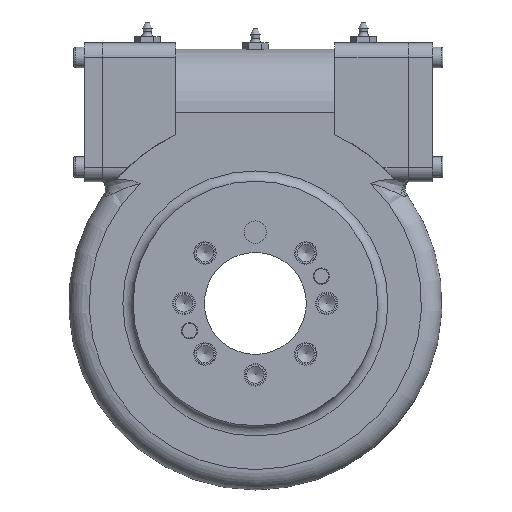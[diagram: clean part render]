
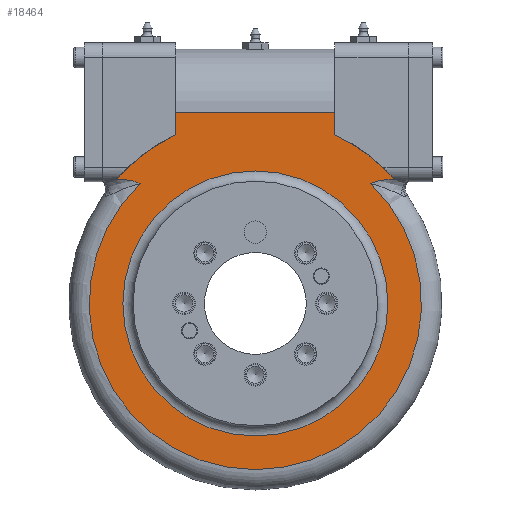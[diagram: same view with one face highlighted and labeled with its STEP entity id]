
A CAD part, front view. The second image highlights one B-rep face of the part: STEP entity #18464.
In plain terms, the highlighted planar face has unit normal (0, -1, 0).
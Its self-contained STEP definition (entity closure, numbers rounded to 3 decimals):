
#34 = FACE_BOUND ( 'NONE', #3839, .T. ) ;
#108 = CARTESIAN_POINT ( 'NONE',  ( -60.252, -31., -33.661 ) ) ;
#198 = CARTESIAN_POINT ( 'NONE',  ( 0., -31., -28.75 ) ) ;
#296 = CARTESIAN_POINT ( 'NONE',  ( 68.198, -31., -32.748 ) ) ;
#307 = DIRECTION ( 'NONE',  ( 0., -1., 0. ) ) ;
#528 = CARTESIAN_POINT ( 'NONE',  ( 60.252, -31., -33.661 ) ) ;
#529 = AXIS2_PLACEMENT_3D ( 'NONE', #15215, #8650, #11990 ) ;
#1045 = ORIENTED_EDGE ( 'NONE', *, *, #18711, .T. ) ;
#1122 = CARTESIAN_POINT ( 'NONE',  ( -56.421, -31., -34.937 ) ) ;
#1579 = CARTESIAN_POINT ( 'NONE',  ( -56.421, -31., -34.937 ) ) ;
#1767 = EDGE_CURVE ( 'NONE', #15386, #12263, #17585, .T. ) ;
#1801 = CIRCLE ( 'NONE', #11463, 81.5 ) ;
#2071 = CARTESIAN_POINT ( 'NONE',  ( 67.19, -31., -32.761 ) ) ;
#2294 = CARTESIAN_POINT ( 'NONE',  ( 68.198, -31., -32.748 ) ) ;
#2327 = DIRECTION ( 'NONE',  ( 0., 0., 1. ) ) ;
#2669 = VERTEX_POINT ( 'NONE', #4085 ) ;
#2705 = CARTESIAN_POINT ( 'NONE',  ( 39., -31., 0. ) ) ;
#2851 = DIRECTION ( 'NONE',  ( 0., -1., 0. ) ) ;
#3167 = LINE ( 'NONE', #2705, #10980 ) ;
#3436 = ORIENTED_EDGE ( 'NONE', *, *, #11782, .T. ) ;
#3480 = VERTEX_POINT ( 'NONE', #198 ) ;
#3531 = CARTESIAN_POINT ( 'NONE',  ( -39., -31., 0. ) ) ;
#3824 = CARTESIAN_POINT ( 'NONE',  ( 61.23, -31., -33.449 ) ) ;
#3839 = EDGE_LOOP ( 'NONE', ( #3436 ) ) ;
#3997 = ORIENTED_EDGE ( 'NONE', *, *, #6099, .T. ) ;
#4046 = ORIENTED_EDGE ( 'NONE', *, *, #1767, .T. ) ;
#4085 = CARTESIAN_POINT ( 'NONE',  ( 39., -31., -10.978 ) ) ;
#4626 = AXIS2_PLACEMENT_3D ( 'NONE', #9582, #2851, #7989 ) ;
#4676 = EDGE_CURVE ( 'NONE', #12263, #14358, #20678, .T. ) ;
#5048 = CARTESIAN_POINT ( 'NONE',  ( -64.192, -31., -32.987 ) ) ;
#5769 = ORIENTED_EDGE ( 'NONE', *, *, #10866, .T. ) ;
#6061 = CIRCLE ( 'NONE', #17041, 65. ) ;
#6067 = VECTOR ( 'NONE', #18723, 1000. ) ;
#6099 = EDGE_CURVE ( 'NONE', #14358, #14252, #17816, .T. ) ;
#6453 = CARTESIAN_POINT ( 'NONE',  ( -58.797, -31., -34.067 ) ) ;
#6725 = CARTESIAN_POINT ( 'NONE',  ( -56.653, -31., -34.837 ) ) ;
#6984 = DIRECTION ( 'NONE',  ( 0., 0., -1. ) ) ;
#7085 = CARTESIAN_POINT ( 'NONE',  ( 57.349, -31., -34.533 ) ) ;
#7208 = CARTESIAN_POINT ( 'NONE',  ( -39., -31., -10.978 ) ) ;
#7989 = DIRECTION ( 'NONE',  ( 0., 0., -1. ) ) ;
#8109 = CARTESIAN_POINT ( 'NONE',  ( -56.535, -31., -34.887 ) ) ;
#8236 = EDGE_CURVE ( 'NONE', #14678, #10562, #11225, .T. ) ;
#8240 = ORIENTED_EDGE ( 'NONE', *, *, #19797, .T. ) ;
#8249 = CARTESIAN_POINT ( 'NONE',  ( -56.887, -31., -34.741 ) ) ;
#8369 = ORIENTED_EDGE ( 'NONE', *, *, #20342, .T. ) ;
#8555 = CARTESIAN_POINT ( 'NONE',  ( 39., -31., 0. ) ) ;
#8612 = CARTESIAN_POINT ( 'NONE',  ( 58.312, -31., -34.202 ) ) ;
#8650 = DIRECTION ( 'NONE',  ( 0., 1., 0. ) ) ;
#8834 = CARTESIAN_POINT ( 'NONE',  ( -39., -31., 0. ) ) ;
#8890 = CARTESIAN_POINT ( 'NONE',  ( 66.187, -31., -32.812 ) ) ;
#9405 = DIRECTION ( 'NONE',  ( 0., 1., 0. ) ) ;
#9582 = CARTESIAN_POINT ( 'NONE',  ( 0., -31., -93.75 ) ) ;
#9610 = CARTESIAN_POINT ( 'NONE',  ( 0., -31., -93.75 ) ) ;
#9700 = EDGE_LOOP ( 'NONE', ( #18653, #3997, #8369, #14357, #8240, #5769, #1045, #4046 ) ) ;
#9714 = AXIS2_PLACEMENT_3D ( 'NONE', #20408, #307, #6984 ) ;
#10069 = CARTESIAN_POINT ( 'NONE',  ( -61.23, -31., -33.449 ) ) ;
#10562 = VERTEX_POINT ( 'NONE', #296 ) ;
#10567 = CARTESIAN_POINT ( 'NONE',  ( 63.201, -31., -33.112 ) ) ;
#10866 = EDGE_CURVE ( 'NONE', #2669, #20946, #3167, .T. ) ;
#10980 = VECTOR ( 'NONE', #15970, 1000. ) ;
#11225 = B_SPLINE_CURVE_WITH_KNOTS ( 'NONE', 3,
 ( #15546, #7085, #8612, #528, #3824, #10567, #15255, #8890, #2071, #2294 ),
 .UNSPECIFIED., .F., .F.,
 ( 4, 2, 2, 2, 4 ),
 ( 0., 0.003, 0.006, 0.009, 0.012 ),
 .UNSPECIFIED. ) ;
#11463 = AXIS2_PLACEMENT_3D ( 'NONE', #20693, #12271, #2327 ) ;
#11539 = CARTESIAN_POINT ( 'NONE',  ( -57.359, -31., -34.555 ) ) ;
#11611 = CARTESIAN_POINT ( 'NONE',  ( -68.198, -31., -32.748 ) ) ;
#11782 = EDGE_CURVE ( 'NONE', #3480, #3480, #6061, .T. ) ;
#11990 = DIRECTION ( 'NONE',  ( 0., 0., 1. ) ) ;
#12263 = VERTEX_POINT ( 'NONE', #7208 ) ;
#12271 = DIRECTION ( 'NONE',  ( 0., -1., 0. ) ) ;
#13208 = PLANE ( 'NONE',  #529 ) ;
#14239 = CARTESIAN_POINT ( 'NONE',  ( 56.421, -31., -34.937 ) ) ;
#14252 = VERTEX_POINT ( 'NONE', #1122 ) ;
#14357 = ORIENTED_EDGE ( 'NONE', *, *, #8236, .T. ) ;
#14358 = VERTEX_POINT ( 'NONE', #16333 ) ;
#14675 = DIRECTION ( 'NONE',  ( -1., 0., 0. ) ) ;
#14678 = VERTEX_POINT ( 'NONE', #14239 ) ;
#15022 = CARTESIAN_POINT ( 'NONE',  ( -58.313, -31., -34.217 ) ) ;
#15215 = CARTESIAN_POINT ( 'NONE',  ( 147.014, -31., 0. ) ) ;
#15255 = CARTESIAN_POINT ( 'NONE',  ( 64.192, -31., -32.987 ) ) ;
#15386 = VERTEX_POINT ( 'NONE', #3531 ) ;
#15412 = FACE_OUTER_BOUND ( 'NONE', #9700, .T. ) ;
#15546 = CARTESIAN_POINT ( 'NONE',  ( 56.421, -31., -34.937 ) ) ;
#15970 = DIRECTION ( 'NONE',  ( 0., 0., 1. ) ) ;
#16333 = CARTESIAN_POINT ( 'NONE',  ( -68.198, -31., -32.748 ) ) ;
#16436 = CARTESIAN_POINT ( 'NONE',  ( -66.187, -31., -32.812 ) ) ;
#16946 = CIRCLE ( 'NONE', #9714, 91.5 ) ;
#17041 = AXIS2_PLACEMENT_3D ( 'NONE', #9610, #9405, #21181 ) ;
#17585 = LINE ( 'NONE', #8834, #6067 ) ;
#17816 = B_SPLINE_CURVE_WITH_KNOTS ( 'NONE', 3,
 ( #11611, #18427, #16436, #5048, #21621, #10069, #108, #6453, #15022, #18268, #11539, #18123, #8249, #6725, #8109, #1579 ),
 .UNSPECIFIED., .F., .F.,
 ( 4, 2, 2, 2, 2, 2, 2, 4 ),
 ( 0., 0.003, 0.006, 0.009, 0.01, 0.011, 0.012, 0.012 ),
 .UNSPECIFIED. ) ;
#18005 = LINE ( 'NONE', #19723, #20155 ) ;
#18123 = CARTESIAN_POINT ( 'NONE',  ( -57.005, -31., -34.694 ) ) ;
#18268 = CARTESIAN_POINT ( 'NONE',  ( -57.596, -31., -34.468 ) ) ;
#18427 = CARTESIAN_POINT ( 'NONE',  ( -67.19, -31., -32.761 ) ) ;
#18464 = ADVANCED_FACE ( 'NONE', ( #34, #15412 ), #13208, .F. ) ;
#18653 = ORIENTED_EDGE ( 'NONE', *, *, #4676, .T. ) ;
#18711 = EDGE_CURVE ( 'NONE', #20946, #15386, #18005, .T. ) ;
#18723 = DIRECTION ( 'NONE',  ( 0., 0., -1. ) ) ;
#19723 = CARTESIAN_POINT ( 'NONE',  ( 147.014, -31., 0. ) ) ;
#19797 = EDGE_CURVE ( 'NONE', #10562, #2669, #16946, .T. ) ;
#20155 = VECTOR ( 'NONE', #14675, 1000. ) ;
#20342 = EDGE_CURVE ( 'NONE', #14252, #14678, #1801, .T. ) ;
#20408 = CARTESIAN_POINT ( 'NONE',  ( 0., -31., -93.75 ) ) ;
#20678 = CIRCLE ( 'NONE', #4626, 91.5 ) ;
#20693 = CARTESIAN_POINT ( 'NONE',  ( 0., -31., -93.75 ) ) ;
#20946 = VERTEX_POINT ( 'NONE', #8555 ) ;
#21181 = DIRECTION ( 'NONE',  ( 0., 0., 1. ) ) ;
#21621 = CARTESIAN_POINT ( 'NONE',  ( -63.2, -31., -33.112 ) ) ;
